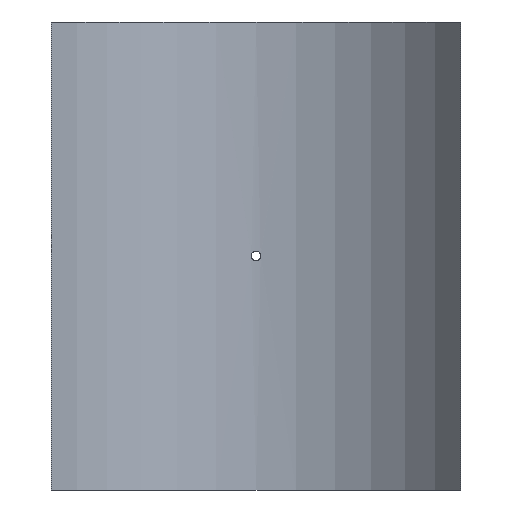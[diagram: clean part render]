
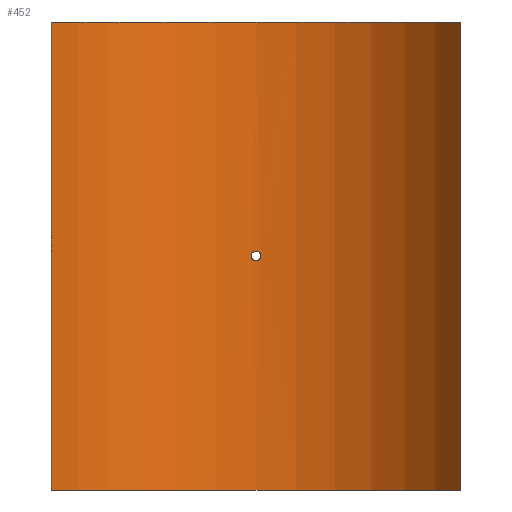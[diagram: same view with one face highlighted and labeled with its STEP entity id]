
A CAD part, front view. The second image highlights one B-rep face of the part: STEP entity #452.
In plain terms, the highlighted cylindrical face has radius 250 mm (diameter 500 mm), a partial arc.
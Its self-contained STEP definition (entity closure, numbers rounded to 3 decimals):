
#19=B_SPLINE_CURVE_WITH_KNOTS('',3,(#788,#789,#790,#791,#792,#793,#794,
#795,#796,#797,#798,#799,#800,#801,#802,#803,#804,#805,#806,#807,#808,#809,
#810,#811,#812,#813,#814,#815,#816,#817,#818,#819,#820,#821),
 .UNSPECIFIED.,.T.,.F.,(4,2,2,2,2,2,2,2,2,2,2,2,2,2,2,2,4),(0.,0.181,
0.362,0.542,0.723,0.904,
1.085,1.266,1.447,1.627,1.808,
1.989,2.17,2.351,2.531,2.712,
2.893),.UNSPECIFIED.);
#43=LINE('',#1065,#62);
#44=LINE('',#1068,#63);
#62=VECTOR('',#661,10.);
#63=VECTOR('',#664,10.);
#76=CYLINDRICAL_SURFACE('',#530,250.);
#88=FACE_BOUND('',#167,.T.);
#127=FACE_OUTER_BOUND('',#166,.T.);
#166=EDGE_LOOP('',(#405,#406,#407,#408));
#167=EDGE_LOOP('',(#409));
#201=CIRCLE('',#529,250.);
#202=CIRCLE('',#531,250.);
#219=VERTEX_POINT('',#786);
#242=VERTEX_POINT('',#1058);
#243=VERTEX_POINT('',#1060);
#244=VERTEX_POINT('',#1064);
#245=VERTEX_POINT('',#1066);
#267=EDGE_CURVE('',#219,#219,#19,.T.);
#299=EDGE_CURVE('',#242,#243,#201,.T.);
#301=EDGE_CURVE('',#244,#242,#43,.T.);
#302=EDGE_CURVE('',#245,#244,#202,.T.);
#303=EDGE_CURVE('',#245,#243,#44,.T.);
#405=ORIENTED_EDGE('',*,*,#301,.F.);
#406=ORIENTED_EDGE('',*,*,#302,.F.);
#407=ORIENTED_EDGE('',*,*,#303,.T.);
#408=ORIENTED_EDGE('',*,*,#299,.F.);
#409=ORIENTED_EDGE('',*,*,#267,.T.);
#452=ADVANCED_FACE('',(#127,#88),#76,.F.);
#529=AXIS2_PLACEMENT_3D('',#1061,#656,#657);
#530=AXIS2_PLACEMENT_3D('',#1063,#659,#660);
#531=AXIS2_PLACEMENT_3D('',#1067,#662,#663);
#656=DIRECTION('center_axis',(0.,0.,1.));
#657=DIRECTION('ref_axis',(0.822,0.569,0.));
#659=DIRECTION('center_axis',(0.,0.,1.));
#660=DIRECTION('ref_axis',(0.822,0.569,0.));
#661=DIRECTION('',(0.,0.,-1.));
#662=DIRECTION('center_axis',(0.,0.,-1.));
#663=DIRECTION('ref_axis',(0.822,0.569,0.));
#664=DIRECTION('',(0.,0.,-1.));
#786=CARTESIAN_POINT('',(4.8,249.954,0.));
#788=CARTESIAN_POINT('Ctrl Pts',(4.8,249.954,0.));
#789=CARTESIAN_POINT('Ctrl Pts',(4.8,249.954,-0.603));
#790=CARTESIAN_POINT('Ctrl Pts',(4.68,249.956,-1.246));
#791=CARTESIAN_POINT('Ctrl Pts',(4.19,249.965,-2.428));
#792=CARTESIAN_POINT('Ctrl Pts',(3.82,249.971,-2.968));
#793=CARTESIAN_POINT('Ctrl Pts',(2.968,249.983,-3.82));
#794=CARTESIAN_POINT('Ctrl Pts',(2.428,249.989,-4.19));
#795=CARTESIAN_POINT('Ctrl Pts',(1.246,249.998,-4.68));
#796=CARTESIAN_POINT('Ctrl Pts',(0.603,250.,-4.8));
#797=CARTESIAN_POINT('Ctrl Pts',(-0.603,250.,-4.8));
#798=CARTESIAN_POINT('Ctrl Pts',(-1.246,249.998,-4.68));
#799=CARTESIAN_POINT('Ctrl Pts',(-2.428,249.989,-4.19));
#800=CARTESIAN_POINT('Ctrl Pts',(-2.968,249.983,-3.82));
#801=CARTESIAN_POINT('Ctrl Pts',(-3.82,249.971,-2.968));
#802=CARTESIAN_POINT('Ctrl Pts',(-4.19,249.965,-2.428));
#803=CARTESIAN_POINT('Ctrl Pts',(-4.68,249.956,-1.246));
#804=CARTESIAN_POINT('Ctrl Pts',(-4.8,249.954,-0.603));
#805=CARTESIAN_POINT('Ctrl Pts',(-4.8,249.954,0.603));
#806=CARTESIAN_POINT('Ctrl Pts',(-4.68,249.956,1.246));
#807=CARTESIAN_POINT('Ctrl Pts',(-4.19,249.965,2.428));
#808=CARTESIAN_POINT('Ctrl Pts',(-3.82,249.971,2.968));
#809=CARTESIAN_POINT('Ctrl Pts',(-2.968,249.983,3.82));
#810=CARTESIAN_POINT('Ctrl Pts',(-2.428,249.989,4.19));
#811=CARTESIAN_POINT('Ctrl Pts',(-1.246,249.998,4.68));
#812=CARTESIAN_POINT('Ctrl Pts',(-0.603,250.,4.8));
#813=CARTESIAN_POINT('Ctrl Pts',(0.603,250.,4.8));
#814=CARTESIAN_POINT('Ctrl Pts',(1.246,249.998,4.68));
#815=CARTESIAN_POINT('Ctrl Pts',(2.428,249.989,4.19));
#816=CARTESIAN_POINT('Ctrl Pts',(2.968,249.983,3.82));
#817=CARTESIAN_POINT('Ctrl Pts',(3.82,249.971,2.968));
#818=CARTESIAN_POINT('Ctrl Pts',(4.19,249.965,2.428));
#819=CARTESIAN_POINT('Ctrl Pts',(4.68,249.956,1.246));
#820=CARTESIAN_POINT('Ctrl Pts',(4.8,249.954,0.603));
#821=CARTESIAN_POINT('Ctrl Pts',(4.8,249.954,0.));
#1058=CARTESIAN_POINT('',(205.5,142.372,-235.));
#1060=CARTESIAN_POINT('',(-205.5,142.372,-235.));
#1061=CARTESIAN_POINT('Origin',(0.,0.,
-235.));
#1063=CARTESIAN_POINT('Origin',(0.,0.,
0.));
#1064=CARTESIAN_POINT('',(205.5,142.372,235.));
#1065=CARTESIAN_POINT('',(205.5,142.372,0.));
#1066=CARTESIAN_POINT('',(-205.5,142.372,235.));
#1067=CARTESIAN_POINT('Origin',(0.,0.,
235.));
#1068=CARTESIAN_POINT('',(-205.5,142.372,0.));
